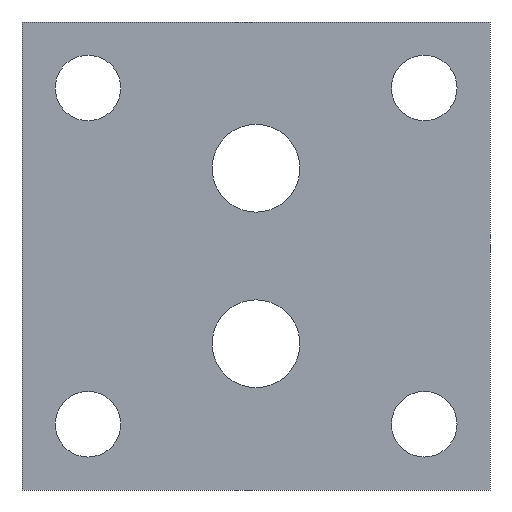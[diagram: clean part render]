
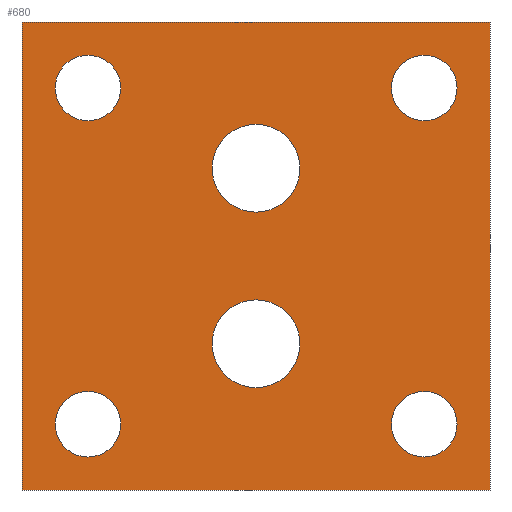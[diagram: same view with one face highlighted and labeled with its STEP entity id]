
A CAD part, front view. The second image highlights one B-rep face of the part: STEP entity #680.
In plain terms, the highlighted planar face has unit normal (0, -1, 0).
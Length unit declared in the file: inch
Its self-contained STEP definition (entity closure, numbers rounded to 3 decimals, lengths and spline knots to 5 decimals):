
#9 = CIRCLE ( 'NONE', #327, 0.14 ) ;
#12 = EDGE_CURVE ( 'NONE', #79, #494, #224, .T. ) ;
#16 = ORIENTED_EDGE ( 'NONE', *, *, #921, .T. ) ;
#20 = ORIENTED_EDGE ( 'NONE', *, *, #477, .T. ) ;
#54 = EDGE_CURVE ( 'NONE', #851, #79, #301, .T. ) ;
#57 = ORIENTED_EDGE ( 'NONE', *, *, #137, .T. ) ;
#72 = EDGE_LOOP ( 'NONE', ( #98, #57 ) ) ;
#79 = VERTEX_POINT ( 'NONE', #303 ) ;
#84 = ORIENTED_EDGE ( 'NONE', *, *, #54, .F. ) ;
#85 = ORIENTED_EDGE ( 'NONE', *, *, #798, .T. ) ;
#90 = EDGE_CURVE ( 'NONE', #727, #180, #980, .T. ) ;
#93 = ORIENTED_EDGE ( 'NONE', *, *, #588, .T. ) ;
#95 = EDGE_LOOP ( 'NONE', ( #246, #726, #767, #84 ) ) ;
#98 = ORIENTED_EDGE ( 'NONE', *, *, #368, .T. ) ;
#108 = CARTESIAN_POINT ( 'NONE',  ( 0.719, 0., 0.578 ) ) ;
#116 = EDGE_LOOP ( 'NONE', ( #239, #861 ) ) ;
#123 = CIRCLE ( 'NONE', #892, 0.14 ) ;
#134 = DIRECTION ( 'NONE',  ( 0., 0., 1. ) ) ;
#137 = EDGE_CURVE ( 'NONE', #164, #226, #260, .T. ) ;
#157 = VERTEX_POINT ( 'NONE', #193 ) ;
#159 = CARTESIAN_POINT ( 'NONE',  ( 0.719, 0., 0.858 ) ) ;
#161 = DIRECTION ( 'NONE',  ( 0., 1., 0. ) ) ;
#164 = VERTEX_POINT ( 'NONE', #108 ) ;
#168 = EDGE_CURVE ( 'NONE', #929, #802, #889, .T. ) ;
#171 = CARTESIAN_POINT ( 'NONE',  ( 0.719, 0., 0.718 ) ) ;
#179 = DIRECTION ( 'NONE',  ( 0., 1., 0. ) ) ;
#180 = VERTEX_POINT ( 'NONE', #377 ) ;
#185 = ORIENTED_EDGE ( 'NONE', *, *, #90, .T. ) ;
#193 = CARTESIAN_POINT ( 'NONE',  ( 0., 0., -0.5625 ) ) ;
#194 = DIRECTION ( 'NONE',  ( 0., 0., 1. ) ) ;
#217 = DIRECTION ( 'NONE',  ( 0., 1., 0. ) ) ;
#224 = LINE ( 'NONE', #448, #363 ) ;
#225 = CARTESIAN_POINT ( 'NONE',  ( 0., 0., 0.1875 ) ) ;
#226 = VERTEX_POINT ( 'NONE', #159 ) ;
#235 = CARTESIAN_POINT ( 'NONE',  ( -0.718, 0., 0.718 ) ) ;
#239 = ORIENTED_EDGE ( 'NONE', *, *, #857, .T. ) ;
#246 = ORIENTED_EDGE ( 'NONE', *, *, #808, .F. ) ;
#249 = CARTESIAN_POINT ( 'NONE',  ( 0., 0., 0.375 ) ) ;
#260 = CIRCLE ( 'NONE', #420, 0.14 ) ;
#263 = AXIS2_PLACEMENT_3D ( 'NONE', #844, #266, #531 ) ;
#266 = DIRECTION ( 'NONE',  ( 0., 1., 0. ) ) ;
#271 = CIRCLE ( 'NONE', #397, 0.1875 ) ;
#297 = VERTEX_POINT ( 'NONE', #586 ) ;
#301 = LINE ( 'NONE', #357, #989 ) ;
#303 = CARTESIAN_POINT ( 'NONE',  ( -1., 0., -1. ) ) ;
#305 = EDGE_CURVE ( 'NONE', #157, #326, #271, .T. ) ;
#317 = DIRECTION ( 'NONE',  ( 0., 0., 1. ) ) ;
#326 = VERTEX_POINT ( 'NONE', #472 ) ;
#327 = AXIS2_PLACEMENT_3D ( 'NONE', #369, #981, #502 ) ;
#357 = CARTESIAN_POINT ( 'NONE',  ( -1., 0., -1. ) ) ;
#360 = DIRECTION ( 'NONE',  ( 1., 0., 0. ) ) ;
#362 = CARTESIAN_POINT ( 'NONE',  ( 0.719, 0., -0.719 ) ) ;
#363 = VECTOR ( 'NONE', #456, 39.37008 ) ;
#366 = AXIS2_PLACEMENT_3D ( 'NONE', #362, #161, #194 ) ;
#368 = EDGE_CURVE ( 'NONE', #226, #164, #565, .T. ) ;
#369 = CARTESIAN_POINT ( 'NONE',  ( -0.718, 0., 0.718 ) ) ;
#375 = AXIS2_PLACEMENT_3D ( 'NONE', #954, #952, #953 ) ;
#377 = CARTESIAN_POINT ( 'NONE',  ( 0.719, 0., -0.579 ) ) ;
#391 = DIRECTION ( 'NONE',  ( 0., 1., 0. ) ) ;
#392 = EDGE_CURVE ( 'NONE', #655, #903, #537, .T. ) ;
#394 = VECTOR ( 'NONE', #360, 39.37008 ) ;
#397 = AXIS2_PLACEMENT_3D ( 'NONE', #479, #486, #488 ) ;
#404 = CARTESIAN_POINT ( 'NONE',  ( -1., 0., 1. ) ) ;
#413 = LINE ( 'NONE', #427, #394 ) ;
#420 = AXIS2_PLACEMENT_3D ( 'NONE', #171, #217, #716 ) ;
#423 = CARTESIAN_POINT ( 'NONE',  ( 0., 0., 0.375 ) ) ;
#426 = CIRCLE ( 'NONE', #972, 0.1875 ) ;
#427 = CARTESIAN_POINT ( 'NONE',  ( -1., 0., 1. ) ) ;
#448 = CARTESIAN_POINT ( 'NONE',  ( -1., 0., 1. ) ) ;
#456 = DIRECTION ( 'NONE',  ( 0., 0., 1. ) ) ;
#466 = DIRECTION ( 'NONE',  ( 0., 0., 1. ) ) ;
#472 = CARTESIAN_POINT ( 'NONE',  ( 0., 0., -0.1875 ) ) ;
#477 = EDGE_CURVE ( 'NONE', #802, #929, #426, .T. ) ;
#479 = CARTESIAN_POINT ( 'NONE',  ( 0., 0., -0.375 ) ) ;
#485 = EDGE_CURVE ( 'NONE', #494, #297, #413, .T. ) ;
#486 = DIRECTION ( 'NONE',  ( 0., 1., 0. ) ) ;
#488 = DIRECTION ( 'NONE',  ( 0., 0., 1. ) ) ;
#494 = VERTEX_POINT ( 'NONE', #404 ) ;
#495 = DIRECTION ( 'NONE',  ( -1., 0., 0. ) ) ;
#502 = DIRECTION ( 'NONE',  ( 0., 0., 1. ) ) ;
#507 = CARTESIAN_POINT ( 'NONE',  ( -0.718, 0., -0.859 ) ) ;
#508 = DIRECTION ( 'NONE',  ( 0., 0., -1. ) ) ;
#515 = DIRECTION ( 'NONE',  ( 0., 0., 1. ) ) ;
#517 = CARTESIAN_POINT ( 'NONE',  ( -0.718, 0., 0.858 ) ) ;
#520 = DIRECTION ( 'NONE',  ( 0., 1., 0. ) ) ;
#523 = CARTESIAN_POINT ( 'NONE',  ( -0.718, 0., -0.719 ) ) ;
#524 = CARTESIAN_POINT ( 'NONE',  ( 1., 0., -1. ) ) ;
#530 = CARTESIAN_POINT ( 'NONE',  ( 1., 0., 1. ) ) ;
#531 = DIRECTION ( 'NONE',  ( 0., 0., 1. ) ) ;
#537 = CIRCLE ( 'NONE', #915, 0.14 ) ;
#538 = DIRECTION ( 'NONE',  ( 0., 1., 0. ) ) ;
#565 = CIRCLE ( 'NONE', #859, 0.14 ) ;
#582 = ORIENTED_EDGE ( 'NONE', *, *, #168, .T. ) ;
#586 = CARTESIAN_POINT ( 'NONE',  ( 1., 0., 1. ) ) ;
#588 = EDGE_CURVE ( 'NONE', #180, #727, #811, .T. ) ;
#603 = EDGE_LOOP ( 'NONE', ( #20, #582 ) ) ;
#622 = AXIS2_PLACEMENT_3D ( 'NONE', #865, #959, #317 ) ;
#649 = FACE_OUTER_BOUND ( 'NONE', #95, .T. ) ;
#652 = FACE_BOUND ( 'NONE', #1001, .T. ) ;
#655 = VERTEX_POINT ( 'NONE', #917 ) ;
#657 = CARTESIAN_POINT ( 'NONE',  ( 0.719, 0., 0.718 ) ) ;
#658 = FACE_BOUND ( 'NONE', #799, .T. ) ;
#659 = DIRECTION ( 'NONE',  ( 0., 1., 0. ) ) ;
#660 = DIRECTION ( 'NONE',  ( 0., 0., 1. ) ) ;
#663 = FACE_BOUND ( 'NONE', #603, .T. ) ;
#672 = CIRCLE ( 'NONE', #375, 0.1875 ) ;
#675 = EDGE_CURVE ( 'NONE', #326, #157, #672, .T. ) ;
#680 = ADVANCED_FACE ( 'NONE', ( #693, #663, #688, #740, #658, #652, #649 ), #965, .T. ) ;
#688 = FACE_BOUND ( 'NONE', #116, .T. ) ;
#693 = FACE_BOUND ( 'NONE', #900, .T. ) ;
#696 = AXIS2_PLACEMENT_3D ( 'NONE', #249, #391, #466 ) ;
#703 = ORIENTED_EDGE ( 'NONE', *, *, #675, .T. ) ;
#712 = AXIS2_PLACEMENT_3D ( 'NONE', #967, #943, #946 ) ;
#716 = DIRECTION ( 'NONE',  ( 0., 0., 1. ) ) ;
#726 = ORIENTED_EDGE ( 'NONE', *, *, #485, .F. ) ;
#727 = VERTEX_POINT ( 'NONE', #869 ) ;
#730 = VECTOR ( 'NONE', #508, 39.37008 ) ;
#740 = FACE_BOUND ( 'NONE', #72, .T. ) ;
#767 = ORIENTED_EDGE ( 'NONE', *, *, #12, .F. ) ;
#798 = EDGE_CURVE ( 'NONE', #822, #1004, #123, .T. ) ;
#799 = EDGE_LOOP ( 'NONE', ( #93, #185 ) ) ;
#802 = VERTEX_POINT ( 'NONE', #814 ) ;
#808 = EDGE_CURVE ( 'NONE', #297, #851, #824, .T. ) ;
#811 = CIRCLE ( 'NONE', #263, 0.14 ) ;
#814 = CARTESIAN_POINT ( 'NONE',  ( 0., 0., 0.5625 ) ) ;
#819 = DIRECTION ( 'NONE',  ( 0., 0., 1. ) ) ;
#822 = VERTEX_POINT ( 'NONE', #507 ) ;
#824 = LINE ( 'NONE', #530, #730 ) ;
#844 = CARTESIAN_POINT ( 'NONE',  ( 0.719, 0., -0.719 ) ) ;
#851 = VERTEX_POINT ( 'NONE', #524 ) ;
#857 = EDGE_CURVE ( 'NONE', #903, #655, #9, .T. ) ;
#859 = AXIS2_PLACEMENT_3D ( 'NONE', #657, #659, #660 ) ;
#861 = ORIENTED_EDGE ( 'NONE', *, *, #392, .T. ) ;
#865 = CARTESIAN_POINT ( 'NONE',  ( -0.718, 0., -0.719 ) ) ;
#869 = CARTESIAN_POINT ( 'NONE',  ( 0.719, 0., -0.859 ) ) ;
#889 = CIRCLE ( 'NONE', #696, 0.1875 ) ;
#892 = AXIS2_PLACEMENT_3D ( 'NONE', #523, #520, #515 ) ;
#900 = EDGE_LOOP ( 'NONE', ( #703, #904 ) ) ;
#903 = VERTEX_POINT ( 'NONE', #517 ) ;
#904 = ORIENTED_EDGE ( 'NONE', *, *, #305, .T. ) ;
#915 = AXIS2_PLACEMENT_3D ( 'NONE', #235, #179, #134 ) ;
#917 = CARTESIAN_POINT ( 'NONE',  ( -0.718, 0., 0.578 ) ) ;
#919 = CIRCLE ( 'NONE', #622, 0.14 ) ;
#921 = EDGE_CURVE ( 'NONE', #1004, #822, #919, .T. ) ;
#929 = VERTEX_POINT ( 'NONE', #225 ) ;
#941 = CARTESIAN_POINT ( 'NONE',  ( -0.718, 0., -0.579 ) ) ;
#943 = DIRECTION ( 'NONE',  ( 0., -1., 0. ) ) ;
#946 = DIRECTION ( 'NONE',  ( 0., 0., -1. ) ) ;
#952 = DIRECTION ( 'NONE',  ( 0., 1., 0. ) ) ;
#953 = DIRECTION ( 'NONE',  ( 0., 0., 1. ) ) ;
#954 = CARTESIAN_POINT ( 'NONE',  ( 0., 0., -0.375 ) ) ;
#959 = DIRECTION ( 'NONE',  ( 0., 1., 0. ) ) ;
#965 = PLANE ( 'NONE',  #712 ) ;
#967 = CARTESIAN_POINT ( 'NONE',  ( 0., 0., 0. ) ) ;
#972 = AXIS2_PLACEMENT_3D ( 'NONE', #423, #538, #819 ) ;
#980 = CIRCLE ( 'NONE', #366, 0.14 ) ;
#981 = DIRECTION ( 'NONE',  ( 0., 1., 0. ) ) ;
#989 = VECTOR ( 'NONE', #495, 39.37008 ) ;
#1001 = EDGE_LOOP ( 'NONE', ( #16, #85 ) ) ;
#1004 = VERTEX_POINT ( 'NONE', #941 ) ;
